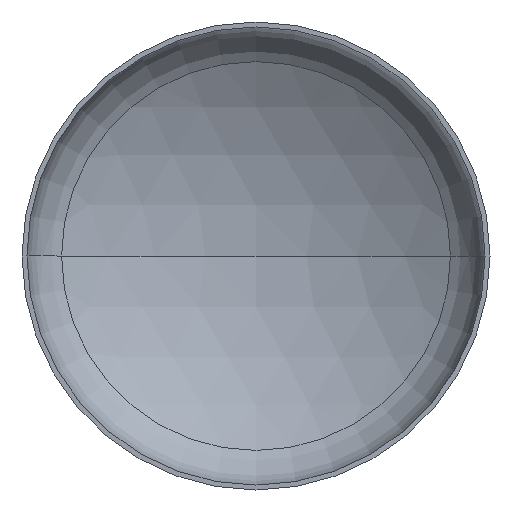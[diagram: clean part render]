
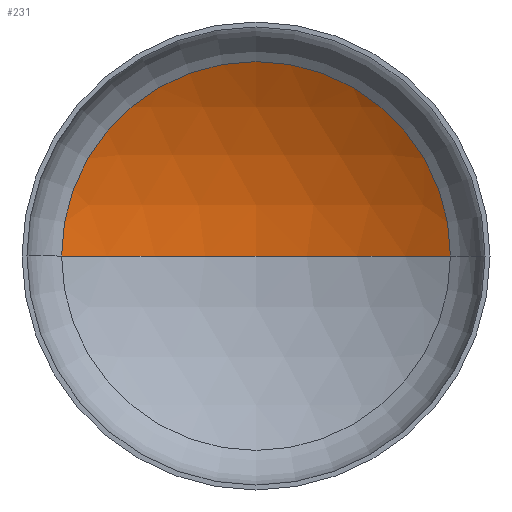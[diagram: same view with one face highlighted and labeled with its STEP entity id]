
A CAD part, front view. The second image highlights one B-rep face of the part: STEP entity #231.
In plain terms, the highlighted spherical face has radius 3040 mm.
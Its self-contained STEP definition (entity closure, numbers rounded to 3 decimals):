
#3 = VERTEX_POINT ( 'NONE', #263 ) ;
#6 = DIRECTION ( 'NONE',  ( -1., 0., 0. ) ) ;
#16 = EDGE_LOOP ( 'NONE', ( #163, #147, #93 ) ) ;
#24 = AXIS2_PLACEMENT_3D ( 'NONE', #161, #245, #31 ) ;
#26 = DIRECTION ( 'NONE',  ( 0., 0., 1. ) ) ;
#31 = DIRECTION ( 'NONE',  ( -1., 0., 0. ) ) ;
#38 = AXIS2_PLACEMENT_3D ( 'NONE', #284, #26, #96 ) ;
#42 = AXIS2_PLACEMENT_3D ( 'NONE', #218, #380, #6 ) ;
#43 = AXIS2_PLACEMENT_3D ( 'NONE', #219, #214, #216 ) ;
#48 = VERTEX_POINT ( 'NONE', #375 ) ;
#83 = EDGE_CURVE ( 'NONE', #48, #196, #236, .T. ) ;
#86 = EDGE_CURVE ( 'NONE', #3, #48, #409, .T. ) ;
#93 = ORIENTED_EDGE ( 'NONE', *, *, #83, .T. ) ;
#96 = DIRECTION ( 'NONE',  ( 1., 0., 0. ) ) ;
#106 = EDGE_CURVE ( 'NONE', #3, #196, #289, .T. ) ;
#147 = ORIENTED_EDGE ( 'NONE', *, *, #86, .T. ) ;
#161 = CARTESIAN_POINT ( 'NONE',  ( 0., -1977.951, 0. ) ) ;
#163 = ORIENTED_EDGE ( 'NONE', *, *, #106, .F. ) ;
#196 = VERTEX_POINT ( 'NONE', #281 ) ;
#214 = DIRECTION ( 'NONE',  ( 0., -1., 0. ) ) ;
#216 = DIRECTION ( 'NONE',  ( 1., 0., 0. ) ) ;
#218 = CARTESIAN_POINT ( 'NONE',  ( 0., -1977.951, 0. ) ) ;
#219 = CARTESIAN_POINT ( 'NONE',  ( 0., 619.919, 0. ) ) ;
#223 = FACE_OUTER_BOUND ( 'NONE', #16, .T. ) ;
#231 = ADVANCED_FACE ( 'NONE', ( #223 ), #404, .F. ) ;
#236 = CIRCLE ( 'NONE', #43, 1578.819 ) ;
#245 = DIRECTION ( 'NONE',  ( 0., 0., -1. ) ) ;
#263 = CARTESIAN_POINT ( 'NONE',  ( 0., 1062.049, 0. ) ) ;
#281 = CARTESIAN_POINT ( 'NONE',  ( -1578.819, 619.919, 0. ) ) ;
#284 = CARTESIAN_POINT ( 'NONE',  ( 0., -1977.951, 0. ) ) ;
#289 = CIRCLE ( 'NONE', #38, 3040. ) ;
#375 = CARTESIAN_POINT ( 'NONE',  ( 1578.819, 619.919, 0. ) ) ;
#380 = DIRECTION ( 'NONE',  ( 0., 0., -1. ) ) ;
#404 = SPHERICAL_SURFACE ( 'NONE', #24, 3040. ) ;
#409 = CIRCLE ( 'NONE', #42, 3040. ) ;
